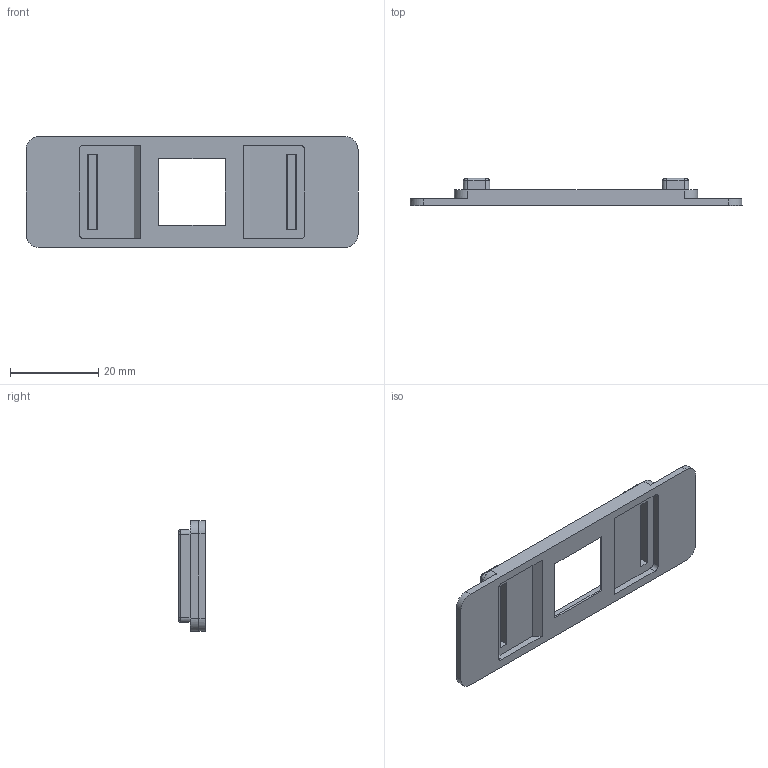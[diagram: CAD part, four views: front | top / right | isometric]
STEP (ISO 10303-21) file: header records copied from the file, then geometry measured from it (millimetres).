
FILE_DESCRIPTION(('Open CASCADE Model'),'2;1');
FILE_NAME('Open CASCADE Shape Model','2026-10-10T06:04:34',('Author'),( 'Open CASCADE'),'Open CASCADE STEP processor 8.0','Open CASCADE 8.0' ,'Unknown');
FILE_SCHEMA(('AUTOMOTIVE_DESIGN { 1 0 10303 214 1 1 1 1 }'));
Length unit declared in the file: millimetre
Products named in the file (1): Open CASCADE STEP translator 8.0 1
Bounding box: 75.12 x 6.1 x 25.12 mm (x, y, z)
Volume: 3821.9 mm3; surface area: 4758.8 mm2
Topology: 1 solids, 1 shells, 103 faces, 260 edges, 168 vertices
Faces by surface type: plane 59, cylinder 28, bspline 16
Entity records: 8850 total; most frequent: CARTESIAN_POINT 4054, DIRECTION 756, LINE 532, VECTOR 532, ORIENTED_EDGE 520, PCURVE 520, DEFINITIONAL_REPRESENTATION 520, EDGE_CURVE 260
